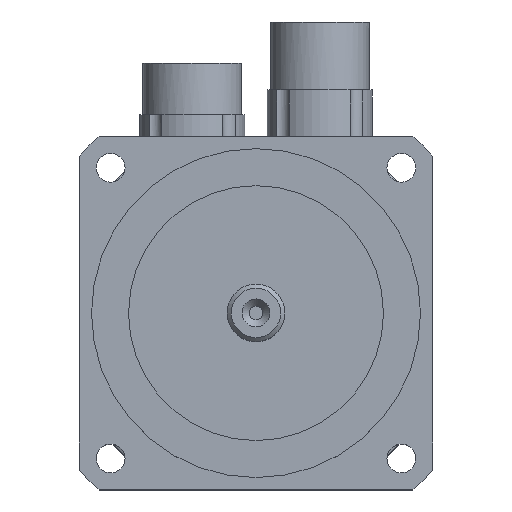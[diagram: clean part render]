
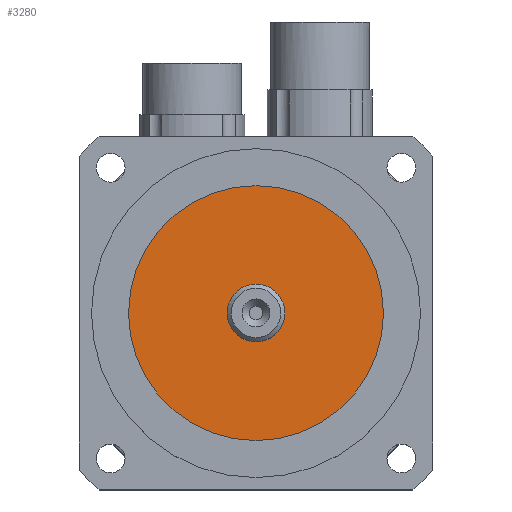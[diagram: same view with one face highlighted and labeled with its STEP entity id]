
A CAD part, top view. The second image highlights one B-rep face of the part: STEP entity #3280.
In plain terms, the highlighted planar face has unit normal (0, 0, 1).
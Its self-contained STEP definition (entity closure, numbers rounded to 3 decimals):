
#464=PLANE('',#1486);
#596=VERTEX_POINT('',#3462);
#605=VERTEX_POINT('',#3554);
#825=DIRECTION('',(0.,0.,-1.));
#826=DIRECTION('',(-7.,0.,0.));
#846=DIRECTION('',(0.,0.,1.));
#847=DIRECTION('',(-31.,0.,0.));
#850=DIRECTION('',(0.,0.,-1.));
#1473=AXIS2_PLACEMENT_3D('',#3461,#825,#826);
#1484=AXIS2_PLACEMENT_3D('',#3553,#846,#847);
#1486=AXIS2_PLACEMENT_3D('',#3557,#850,$);
#1756=CIRCLE('',#1473,7.);
#1765=CIRCLE('',#1484,31.);
#1912=EDGE_CURVE('',#596,#596,#1756,.T.);
#1921=EDGE_CURVE('',#605,#605,#1765,.T.);
#2250=ORIENTED_EDGE('',*,*,#1921,.T.);
#2251=ORIENTED_EDGE('',*,*,#1912,.T.);
#2894=EDGE_LOOP('',(#2250));
#2895=EDGE_LOOP('',(#2251));
#3092=FACE_BOUND('',#2894,.T.);
#3093=FACE_BOUND('',#2895,.T.);
#3280=ADVANCED_FACE('',(#3092,#3093),#464,.F.);
#3461=CARTESIAN_POINT('',(0.,0.,137.5));
#3462=CARTESIAN_POINT('',(7.,0.,137.5));
#3553=CARTESIAN_POINT('',(0.,0.,137.5));
#3554=CARTESIAN_POINT('',(31.,0.,137.5));
#3557=CARTESIAN_POINT('',(0.,0.,137.5));
